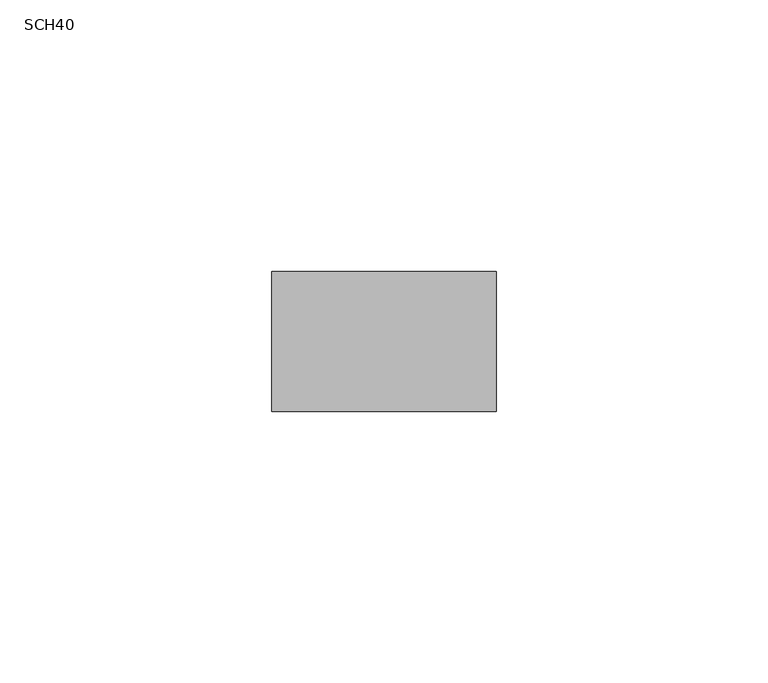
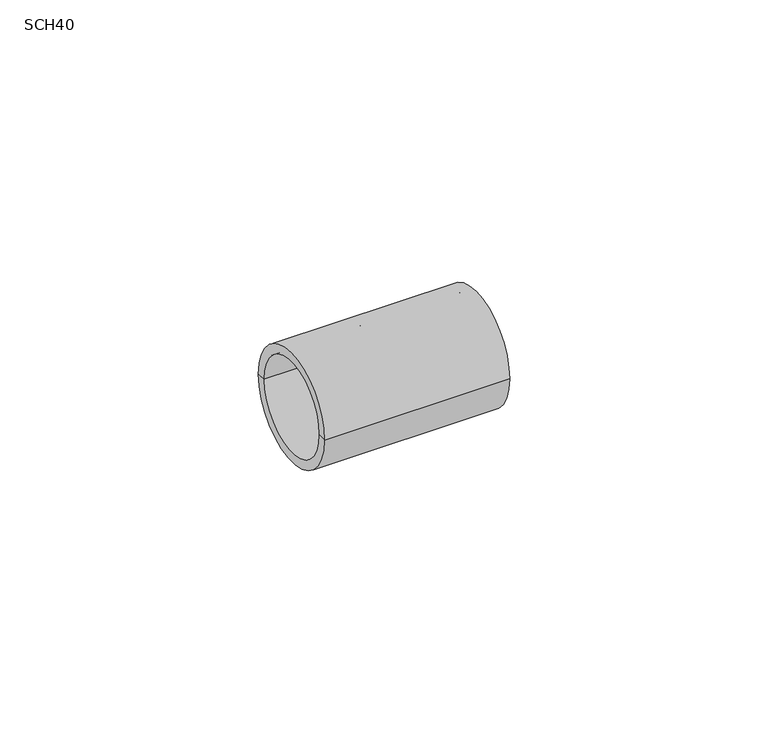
"""IFC4 building model written with IfcOpenShell, lengths in millimetres: cable carrier fitting geometry, PavcoWavin_ConduitFittings_Union : SCH40."""

from ifc_helpers import new_model, si_unit, frame, origin, place, context, project, spatial, polyline, circle_curve, source, transform, mapped, element, save
from ifc_brep_helpers import plane_surface, cylinder_surface, revolved_surface, advanced_brep


def sch40_9d175e18(model_context):
    return source(origin(), model_context, "Body", "AdvancedBrep", [
        advanced_brep(
        [(-1.59, 0.0, 0.0), (-1.59, 10.75, 0.0), (-1.59, -10.75, 0.0), (1.59, -10.75, 0.0), (1.59, 10.75, 0.0), (1.59, 0.0, 0.0), (20.64, -10.75, 0.0), (20.64, 10.75, 0.0), (20.64, -12.86, 0.0), (20.64, 12.86, 0.0), (-20.64, -12.86, 0.0), (-20.64, 12.86, 0.0), (-20.64, -10.75, 0.0), (-20.64, 10.75, 0.0)],
        [
            (0, 1),
            (1, 2, circle_curve(frame((-1.59, 0.0, 0.0), z_axis=(-1.0, 0.0, 0.0), x_axis=(0.0, 1.0, 0.0)), 10.75)),
            (2, 0),
            (2, 1, circle_curve(frame((-1.59, 0.0, 0.0), z_axis=(-1.0, 0.0, 0.0), x_axis=(0.0, 1.0, 0.0)), 10.75)),
            (3, 4, circle_curve(frame((1.59, 0.0, 0.0), z_axis=(1.0, 0.0, 0.0), x_axis=(0.0, 1.0, 0.0)), 10.75)),
            (4, 5),
            (5, 3),
            (4, 3, circle_curve(frame((1.59, 0.0, 0.0), z_axis=(1.0, 0.0, 0.0), x_axis=(0.0, 1.0, 0.0)), 10.75)),
            (6, 7, circle_curve(frame((20.64, 0.0, 0.0), z_axis=(1.0, 0.0, 0.0), x_axis=(0.0, 1.0, 0.0)), 10.75)),
            (7, 4),
            (3, 6),
            (7, 6, circle_curve(frame((20.64, 0.0, 0.0), z_axis=(1.0, 0.0, 0.0), x_axis=(0.0, 1.0, 0.0)), 10.75)),
            (8, 9, circle_curve(frame((20.64, 0.0, 0.0), z_axis=(1.0, 0.0, 0.0), x_axis=(0.0, 1.0, 0.0)), 12.86)),
            (9, 7),
            (6, 8),
            (9, 8, circle_curve(frame((20.64, 0.0, 0.0), z_axis=(1.0, 0.0, 0.0), x_axis=(0.0, 1.0, 0.0)), 12.86)),
            (10, 11, circle_curve(frame((-20.64, 0.0, 0.0), z_axis=(1.0, 0.0, 0.0), x_axis=(0.0, 1.0, 0.0)), 12.86)),
            (11, 9),
            (8, 10),
            (11, 10, circle_curve(frame((-20.64, 0.0, 0.0), z_axis=(1.0, 0.0, 0.0), x_axis=(0.0, 1.0, 0.0)), 12.86)),
            (12, 13, circle_curve(frame((-20.64, 0.0, 0.0), z_axis=(1.0, 0.0, 0.0), x_axis=(0.0, 1.0, 0.0)), 10.75)),
            (13, 11),
            (10, 12),
            (13, 12, circle_curve(frame((-20.64, 0.0, 0.0), z_axis=(1.0, 0.0, 0.0), x_axis=(0.0, 1.0, 0.0)), 10.75)),
            (1, 13),
            (12, 2),
        ],
        [
            plane_surface(frame((-1.59, 0.0, 0.0), z_axis=(-1.0, 0.0, 0.0), x_axis=(0.0, 1.0, 0.0))),
            plane_surface(frame((1.59, 0.0, 0.0), z_axis=(1.0, 0.0, 0.0), x_axis=(0.0, 1.0, 0.0))),
            revolved_surface(polyline([(1.5899999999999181, 10.75, 0.0), (20.6400000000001, 10.75, 0.0)]), (2000.0, 0.0, 0.0), (-1.0, 0.0, 0.0)),
            plane_surface(frame((20.64, 0.0, 0.0), z_axis=(1.0, 0.0, 0.0), x_axis=(0.0, 1.0, 0.0))),
            cylinder_surface(frame((2000.0, 0.0, 0.0), z_axis=(-1.0, 0.0, 0.0), x_axis=(0.0, 1.0, 0.0)), 12.86),
            plane_surface(frame((-20.64, 0.0, 0.0), z_axis=(-1.0, 0.0, 0.0), x_axis=(0.0, 1.0, 0.0))),
            revolved_surface(polyline([(-20.6400000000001, 10.75, 0.0), (-1.5899999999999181, 10.75, 0.0)]), (2000.0, 0.0, 0.0), (-1.0, 0.0, 0.0)),
        ],
        [
            (0, [[1, 2, 3]]),
            (0, [[-3, 4, -1]]),
            (1, [[5, 6, 7]]),
            (1, [[8, -7, -6]]),
            (2, [[9, 10, -5, 11]]),
            (2, [[12, -11, -8, -10]]),
            (3, [[13, 14, -9, 15]]),
            (3, [[16, -15, -12, -14]]),
            (4, [[17, 18, -13, 19]]),
            (4, [[20, -19, -16, -18]]),
            (5, [[21, 22, -17, 23]]),
            (5, [[24, -23, -20, -22]]),
            (6, [[-2, 25, -21, 26]]),
            (6, [[-4, -26, -24, -25]]),
        ],
    ),
    ])


if __name__ == "__main__":
    model = new_model("IFC4")
    model_context = context("Model", 3, world=origin())
    ifc_project = project(units=[si_unit("LENGTHUNIT", "METRE", prefix="MILLI")], contexts=[model_context])
    site = spatial("IfcSite", under=ifc_project)
    building = spatial("IfcBuilding", under=site)
    placement = place(None, origin())
    sch40_shape = sch40_9d175e18(model_context)
    element("IfcCableCarrierFitting", 1, ObjectType="PavcoWavin_ConduitFittings_Union : SCH40", at=placement, inside=building, context=model_context, shape_type="MappedRepresentation", body=[
        mapped(sch40_shape, transform((0.0, 0.0, 0.0), x_axis=(1.0, 0.0, 0.0), y_axis=(0.0, 1.0, 0.0), z_axis=(0.0, 0.0, 1.0))),
    ])
    save(model, "model.ifc")
